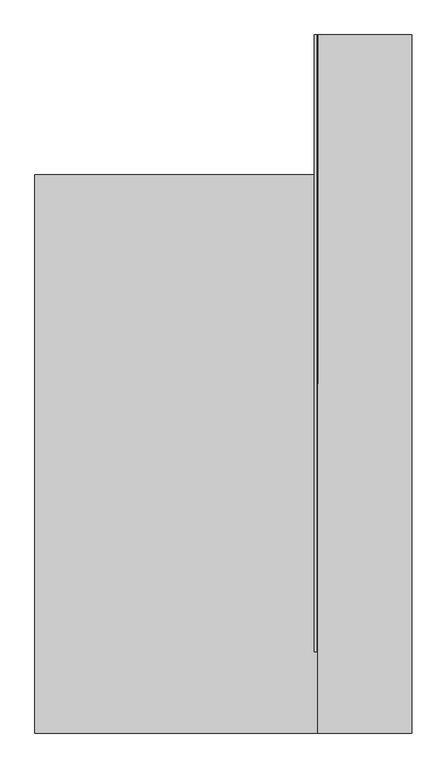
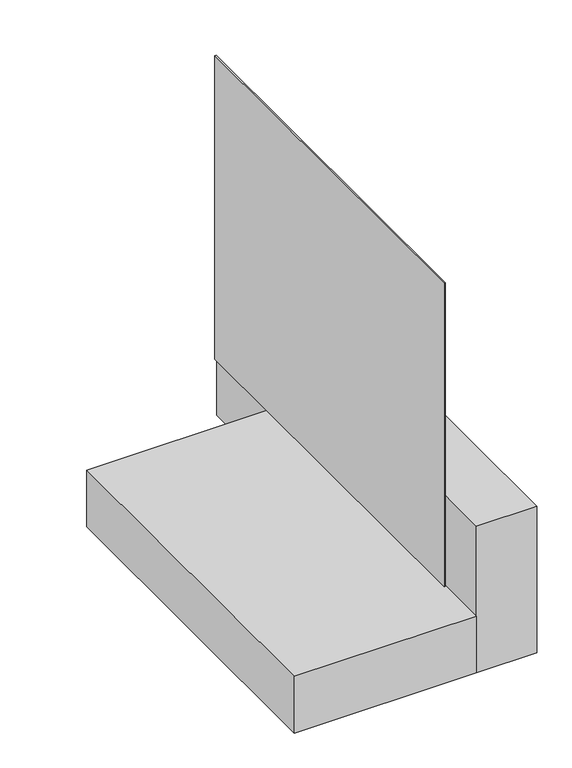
"""IFC4 building model written with IfcOpenShell, lengths in millimetres: proxy geometry, IMPER:IMPER:433934 : IMPER:IMPER:433934."""

from ifc_helpers import new_model, si_unit, point, frame, frame_2d, origin, place, context, project, spatial, polyline, circle_curve, trimmed, segment, composite_curve, outline, extrude, source, transform, mapped, element, save


def generic_models_70e7240a(model_context):
    return source(origin(), model_context, "Body", "SweptSolid", [
        extrude(outline(polyline([(-351.9704105, 145.8700195), (-341.9979716, 145.8700195), (-341.9979716, -2505.9740371), (-351.9704105, -2505.9740371), (-351.9704105, 145.8700195)])), frame((0.0, 0.0, -2.523798), z_axis=(0.0, 0.0, 1.0), x_axis=(1.0, 0.0, 0.0)), (0.0, 0.0, 1.0), 2142.8222866),
        extrude(outline(polyline([(-336.9315394, -2854.1299805), (-1552.7804486, -2854.1299805), (-1552.7804486, -454.1299805), (-336.9315394, -454.1299805), (-336.9315394, -2854.1299805)])), frame((0.0, 0.0, -402.523798), z_axis=(0.0, 0.0, 1.0), x_axis=(1.0, 0.0, 0.0)), (0.0, 0.0, 1.0), 400.0),
        extrude(outline(polyline([(67.0408996, -2854.1299805), (-336.9315394, -2854.1299805), (-336.9315394, 145.8700195), (67.0408996, 145.8700195), (67.0408996, -2854.1299805)])), frame((0.0, 0.0, -402.523798), z_axis=(0.0, 0.0, 1.0), x_axis=(1.0, 0.0, 0.0)), (0.0, 0.0, 1.0), 1034.8744031),
        extrude(outline(composite_curve([segment(polyline([(1063.6239853, -340.0255326), (-2.523798, -340.0255326)]), True, "CONTINUOUS"), segment(trimmed(circle_curve(frame_2d((-2.523798, -330.0255326)), 10.0), [point((-2.523798, -340.0255326))], [point((-2.523798, -320.0255326))], False, "CARTESIAN"), True, "CONTINUOUS"), segment(trimmed(circle_curve(frame_2d((-2.523798, -326.5465084)), 6.5209758), [point((-2.523798, -320.0255326))], [point((-2.523798, -333.0674842))], False, "CARTESIAN"), True, "CONTINUOUS"), segment(trimmed(circle_curve(frame_2d((-2.523798, -329.8069963)), 3.2604879), [point((-2.523798, -333.0674842))], [point((-2.523798, -326.5465084))], False, "CARTESIAN"), True, "CONTINUOUS"), segment(polyline([(-2.523798, -326.5465084), (-2.523798, -329.5465084)]), True, "CONTINUOUS"), segment(trimmed(circle_curve(frame_2d((-2.523798, -329.8069963)), 0.2604879), [point((-2.523798, -329.5465084))], [point((-2.523798, -330.0674842))], True, "CARTESIAN"), True, "CONTINUOUS"), segment(trimmed(circle_curve(frame_2d((-2.523798, -326.5465084)), 3.5209758), [point((-2.523798, -330.0674842))], [point((-2.523798, -323.0255326))], True, "CARTESIAN"), True, "CONTINUOUS"), segment(trimmed(circle_curve(frame_2d((-2.523798, -330.0255326)), 7.0), [point((-2.523798, -323.0255326))], [point((-2.523798, -337.0255326))], True, "CARTESIAN"), True, "CONTINUOUS"), segment(polyline([(-2.523798, -337.0255326), (1063.6239853, -337.0255326), (1063.6239853, -340.0255326)]), True, "CONTINUOUS")], self_intersect=False)), frame((0.0, -1354.1299805, 0.0), z_axis=(0.0, 1.0, 0.0), x_axis=(0.0, 0.0, 1.0)), (0.0, 0.0, 1.0), 1500.0),
        extrude(outline(polyline([(-340.9979716, 145.8700195), (-340.9979716, -2254.1299805), (-341.9979716, -2254.1299805), (-341.9979716, 145.8700195), (-340.9979716, 145.8700195)])), frame((0.0, 0.0, -2.523798), z_axis=(0.0, 0.0, 1.0), x_axis=(1.0, 0.0, 0.0)), (0.0, 0.0, 1.0), 1965.7083629),
        extrude(outline(polyline([(-340.0255326, 145.8700195), (-340.0255326, -1754.1299805), (-340.9979716, -1754.1299805), (-340.9979716, 145.8700195), (-340.0255326, 145.8700195)])), frame((0.0, 0.0, -2.523798), z_axis=(0.0, 0.0, 1.0), x_axis=(1.0, 0.0, 0.0)), (0.0, 0.0, 1.0), 1548.1528029),
    ])


if __name__ == "__main__":
    model = new_model("IFC4")
    model_context = context("Model", 3, world=origin())
    ifc_project = project(units=[si_unit("LENGTHUNIT", "METRE", prefix="MILLI")], contexts=[model_context])
    site = spatial("IfcSite", under=ifc_project)
    building = spatial("IfcBuilding", under=site)
    placement = place(None, origin())
    generic_models_shape = generic_models_70e7240a(model_context)
    element("IfcBuildingElementProxy", 1, Name="IMPER:IMPER:433934 : IMPER:IMPER:433934", ObjectType="IMPER:IMPER:433934 : IMPER:IMPER:433934", at=placement, inside=building, context=model_context, shape_type="MappedRepresentation", body=[
        mapped(generic_models_shape, transform((0.0, 0.0, 0.0), x_axis=(1.0, 0.0, 0.0), y_axis=(0.0, 1.0, 0.0), z_axis=(0.0, 0.0, 1.0))),
    ])
    save(model, "model.ifc")
